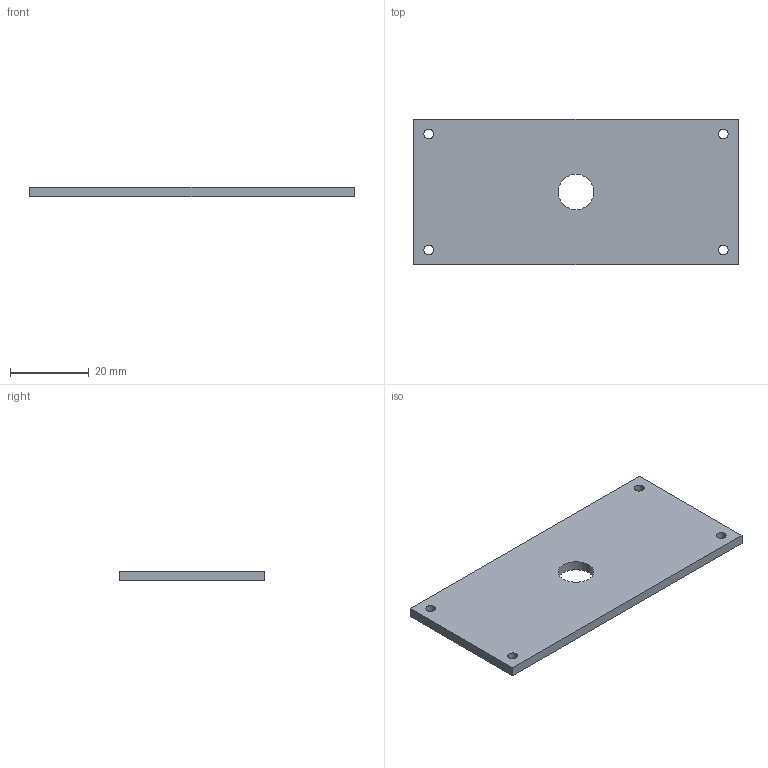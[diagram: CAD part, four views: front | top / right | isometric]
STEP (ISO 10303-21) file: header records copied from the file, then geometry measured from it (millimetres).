
FILE_DESCRIPTION (( 'STEP AP203' ), '1' );
FILE_NAME ('Gimbal Atch. Plate v1.STEP', '2016-10-20T20:49:03', ( 'drhyoo' ), ( '' ), 'SwSTEP 2.0', 'SolidWorks 2016', '' );
FILE_SCHEMA (( 'CONFIG_CONTROL_DESIGN' ));
Length unit declared in the file: millimetre
Products named in the file (1): Gimbal Atch. Plate v1
Bounding box: 82.5 x 37 x 2.5 mm (x, y, z)
Volume: 7423.1 mm3; surface area: 6685.2 mm2
Topology: 1 solids, 1 shells, 16 faces, 42 edges, 28 vertices
Faces by surface type: cylinder 10, plane 6
Entity records: 603 total; most frequent: DIRECTION 96, CARTESIAN_POINT 87, ORIENTED_EDGE 84, EDGE_CURVE 42, AXIS2_PLACEMENT_3D 37, VERTEX_POINT 28, EDGE_LOOP 26, VECTOR 22
